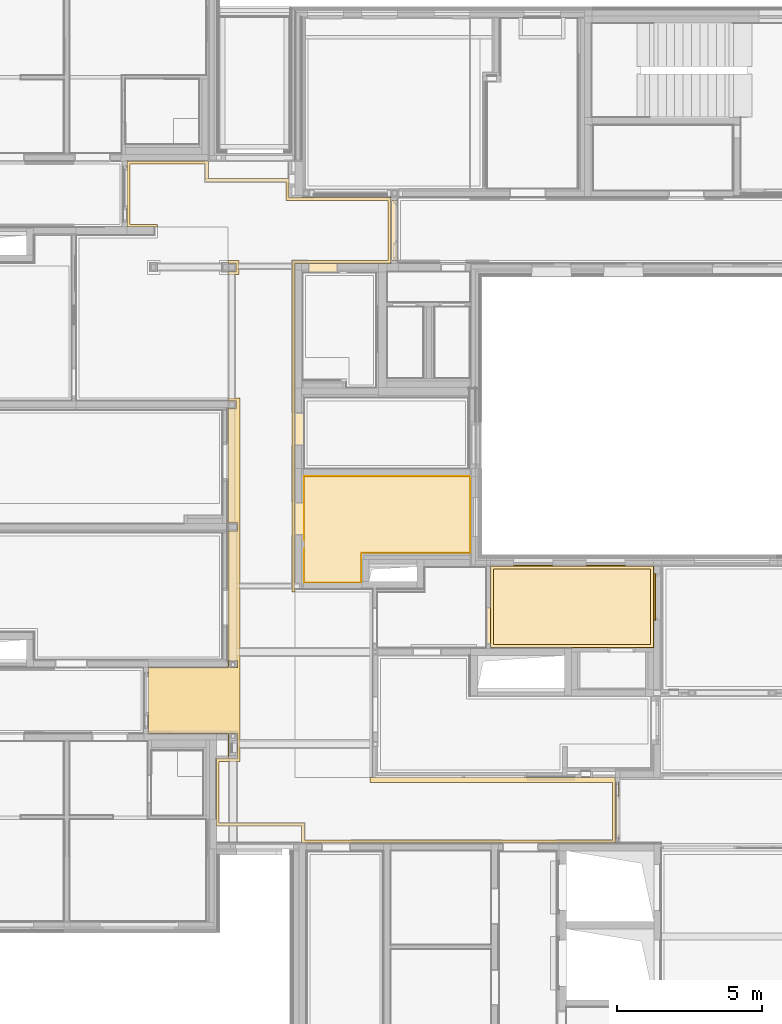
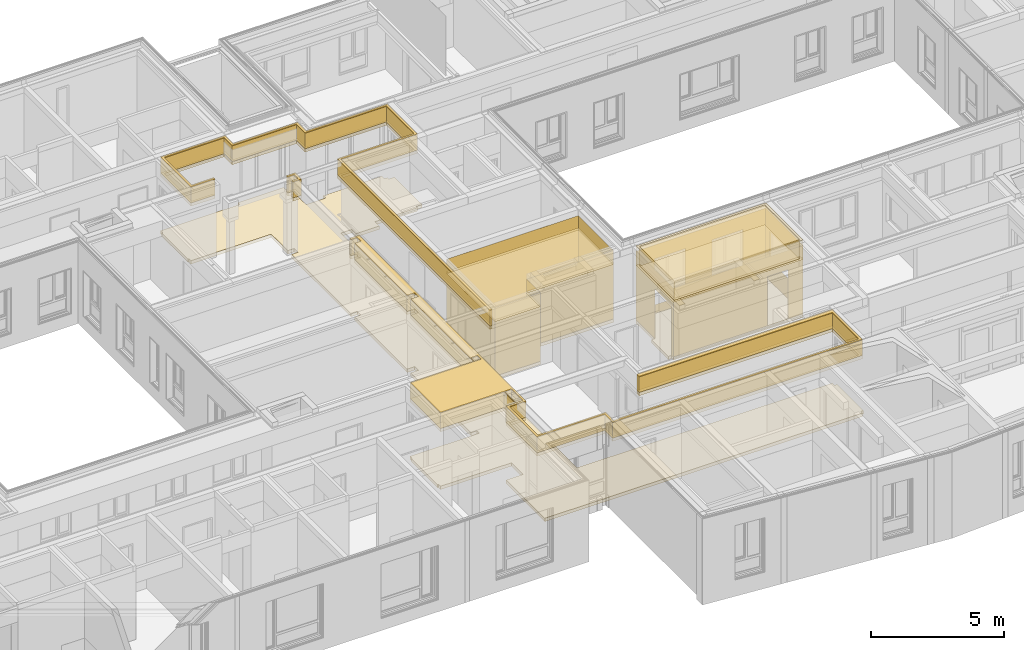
# One storey, part 170 of 222: 18 coverings.
"""IFC4 building model written with IfcOpenShell, lengths in metres."""

from ifc_helpers import new_model, entity, si_unit, converted_unit, derived_unit, frame, frame_2d, origin, origin_with_axes, place, context, subcontext, project, spatial, polyline, rectangle, outline, extrude, material, layer, layer_set, layer_usage, element, save


model = new_model("IFC4")

# Units and contexts
model_context = context("Model", 3, precision=1e-05, world=origin())
body_context = subcontext(model_context, "Body", "Model", "MODEL_VIEW")
ifc_project = project(units=[si_unit("LENGTHUNIT", "METRE"), si_unit("AREAUNIT", "SQUARE_METRE"), si_unit("VOLUMEUNIT", "CUBIC_METRE"), si_unit("MASSUNIT", "GRAM", prefix="KILO"), converted_unit("PLANEANGLEUNIT", "DEGREE", entity("IfcPlaneAngleMeasure", 0.0174532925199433), si_unit("PLANEANGLEUNIT", "RADIAN"), dimensions=[0, 0, 0, 0, 0, 0, 0]), derived_unit("THERMALTRANSMITTANCEUNIT", [(si_unit("POWERUNIT", "WATT"), 1), (si_unit("THERMODYNAMICTEMPERATUREUNIT", "KELVIN"), -1), (si_unit("LENGTHUNIT", "METRE"), -2)]), derived_unit("VOLUMETRICFLOWRATEUNIT", [(si_unit("LENGTHUNIT", "METRE"), 3), (converted_unit("TIMEUNIT", "hour", entity("IfcTimeMeasure", 3600.0), si_unit("TIMEUNIT", "SECOND"), dimensions=[0, 0, 1, 0, 0, 0, 0]), -1), (si_unit("LENGTHUNIT", "METRE"), -1)])], contexts=[model_context])

# Site, building, storey, space
site_placement = place(None, origin())
site = spatial("IfcSite", under=ifc_project, at=site_placement, Name="Psychiatrie Neubau Wunstorf", CompositionType="ELEMENT")
building_placement = place(site_placement, origin())
building = spatial("IfcBuilding", under=site, at=building_placement, Name="Neubau H2 Stationsgebäude", CompositionType="ELEMENT")
storey_placement = place(building_placement, frame((0.0, 0.0, 3.6)))
storey = spatial("IfcBuildingStorey", under=building, at=storey_placement, Name="H2 Ebene +1", CompositionType="ELEMENT", Elevation=3.6)
space_1_placement = place(storey_placement, frame((32.083, 0.550000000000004, 0.0)))
space_1 = spatial("IfcSpace", under=storey, at=space_1_placement, Name="WUN-H2-E01-F03", CompositionType="ELEMENT")

# Coverings
ifc_material_1 = material(Name="Ku1")
ifc_layer_1 = layer(ifc_material_1, 0.15)
ifc_layer_set_1 = layer_set([ifc_layer_1])
ifc_layer_usage_1 = layer_usage(ifc_layer_set_1, "AXIS3", "POSITIVE", 0.0)
covering_1_placement = place(space_1_placement, frame((-0.0400000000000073, 0.0, 0.0)))
element("IfcCovering", 1, at=covering_1_placement, inside=space_1, material=ifc_layer_usage_1, Name="PVC Bahnenware Holzoptik", PredefinedType="FLOORING", context=body_context, shape_type="SweptSolid", body=[
    extrude(rectangle(XDim=1.98299888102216, YDim=0.144999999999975, at=frame_2d((0.991499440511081, 0.0724999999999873), x_axis=(1.0, 0.0))), frame((3.48300111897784, 23.5640036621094, 0.0), z_axis=(0.0, 0.0, 1.0), x_axis=(1.0, 0.0, 0.0)), (0.0, 0.0, 1.0), 0.15),
    extrude(rectangle(XDim=0.117499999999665, YDim=1.9825, at=frame_2d((0.0587499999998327, 0.99125), x_axis=(1.0, 0.0))), frame((16.921690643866, 0.129999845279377, 0.0), z_axis=(0.0, 0.0, 1.0), x_axis=(1.0, 0.0, 0.0)), (0.0, 0.0, 1.0), 0.15),
    extrude(rectangle(XDim=0.039999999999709, YDim=1.9713, at=frame_2d((-0.0199999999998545, -0.98565), x_axis=(-1.0, 0.0))), frame((0.775499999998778, 5.90699981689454, 0.0), z_axis=(0.0, 0.0, 1.0), x_axis=(1.0, 0.0, 0.0)), (0.0, 0.0, 1.0), 0.15),
    extrude(rectangle(XDim=0.0400000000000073, YDim=1.9715, at=frame_2d((-0.0200000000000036, -0.98575), x_axis=(-1.0, 0.0))), frame((0.0400000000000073, 23.4125000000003, 0.0), z_axis=(0.0, 0.0, 1.0), x_axis=(1.0, 0.0, 0.0)), (0.0, 0.0, 1.0), 0.15),
    extrude(rectangle(XDim=0.25, YDim=2.063, at=frame_2d((-0.125, -1.0315), x_axis=(-1.0, 0.0))), frame((9.415, 22.2064990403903, 0.0), z_axis=(0.0, 0.0, 1.0), x_axis=(1.0, 0.0, 0.0)), (0.0, 0.0, 1.0), 0.15),
    extrude(rectangle(XDim=0.322, YDim=1.135, at=frame_2d((-0.161, -0.5675), x_axis=(-1.0, 0.0))), frame((6.16150000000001, 11.7749996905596, 0.0), z_axis=(0.0, 0.0, 1.0), x_axis=(1.0, 0.0, 0.0)), (0.0, 0.0, 1.0), 0.15),
    extrude(rectangle(XDim=0.322, YDim=1.135, at=frame_2d((-0.160999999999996, -0.5675), x_axis=(-1.0, 0.0))), frame((6.16150000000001, 14.875000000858, 0.0), z_axis=(0.0, 0.0, 1.0), x_axis=(1.0, 0.0, 0.0)), (0.0, 0.0, 1.0), 0.15),
    extrude(rectangle(XDim=0.322, YDim=1.01, at=frame_2d((0.505, -0.161), x_axis=(0.0, -1.0))), frame((6.30700000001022, 20.0359980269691, 0.0), z_axis=(0.0, 0.0, 1.0), x_axis=(1.0, 0.0, 0.0)), (0.0, 0.0, 1.0), 0.15),
    extrude(rectangle(XDim=0.185001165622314, YDim=2.55, at=frame_2d((1.275, -0.0925005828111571), x_axis=(0.0, -1.0))), frame((6.48725000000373, 22.499003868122, 0.0), z_axis=(0.0, 0.0, 1.0), x_axis=(1.0, 0.0, 0.0)), (0.0, 0.0, 1.0), 0.15),
    extrude(outline(polyline([(3.8179950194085, 2.90074963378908), (3.08149999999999, 2.90074963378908), (3.08149999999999, 2.44140629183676e-06), (16.8816906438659, 0.0), (16.8816906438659, 2.26749969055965), (5.79949999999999, 2.26749969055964), (5.79949999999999, 20.0359980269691), (9.12499999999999, 20.0359943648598), (9.12499999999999, 22.3139990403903), (5.59599999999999, 22.3140027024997), (5.59599999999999, 23.5640036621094), (2.80599999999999, 23.5640036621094), (2.80599999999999, 23.5675), (0.0, 23.5675), (0.0, 21.2860000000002), (3.48699999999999, 21.2860000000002), (3.48699999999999, 20.0359963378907), (3.76299999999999, 20.0359963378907), (3.76299999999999, 19.7539963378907), (3.48699999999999, 19.7539963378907), (3.48700000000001, 15.2824990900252), (3.76299999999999, 15.2824990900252), (3.76299999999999, 15.0104990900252), (3.48700000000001, 15.0104990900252), (3.48699999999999, 11.059557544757), (3.81799999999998, 11.059557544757), (3.81799999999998, 10.787557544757), (3.48699999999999, 10.787557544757), (3.48699999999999, 6.24699999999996), (3.75223964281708, 6.24699999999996), (3.75223964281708, 6.06699856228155), (3.48724462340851, 6.06699856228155), (3.48724462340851, 6.06199999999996), (0.73549999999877, 6.06199999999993), (0.73549999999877, 3.78074963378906), (3.48699999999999, 3.78074963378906), (3.48699999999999, 3.77574963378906), (3.8179950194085, 3.77574963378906), (3.8179950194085, 2.90074963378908)])), frame((0.0400000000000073, 0.0, 0.0), z_axis=(0.0, 0.0, 1.0), x_axis=(1.0, 0.0, 0.0)), (0.0, 0.0, 1.0), 0.15),
])
ifc_material_2 = material()
ifc_layer_2 = layer(ifc_material_2, 0.036)
ifc_layer_set_2 = layer_set([ifc_layer_2])
ifc_layer_usage_2 = layer_usage(ifc_layer_set_2, "AXIS3", "POSITIVE", 0.0)
covering_2_placement = place(space_1_placement, frame((0.0, 0.0, 3.55)))
element("IfcCovering", 2, at=covering_2_placement, inside=space_1, material=ifc_layer_usage_2, Name="Gipsfaserplatten 2-lagig (BSK)", PredefinedType="CEILING", context=body_context, shape_type="SweptSolid", body=[
    extrude(outline(polyline([(16.0461906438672, 15.2824990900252), (16.0461906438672, 13.2924992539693), (7.65649755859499, 13.2924992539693), (7.65649755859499, 13.1149993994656), (16.1461906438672, 13.1149993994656), (16.1461906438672, 15.3824990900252), (5.29250000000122, 15.3824990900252), (5.29250000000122, 14.7964966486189), (2.34600000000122, 14.7964966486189), (2.34600000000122, 12.4617494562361), (2.75150000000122, 12.4617494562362), (2.75150000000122, 11.6017494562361), (0.0, 11.6017494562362), (0.0, 9.3204990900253), (2.75150000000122, 9.32049909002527), (2.75150000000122, 4.5949415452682), (3.08250000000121, 4.5949415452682), (3.08250000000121, 4.3229415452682), (2.75150000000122, 4.3229415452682), (2.75150000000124, 0.372), (3.02750000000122, 0.372), (3.02750000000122, 0.1), (2.75150000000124, 0.1), (2.75150000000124, 0.0), (3.16750000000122, 0.0), (3.16750000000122, 12.5617494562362), (2.44600000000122, 12.5617494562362), (2.44600000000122, 14.6964966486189), (5.39250000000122, 14.6964966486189), (5.39250000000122, 15.2824990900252), (16.0461906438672, 15.2824990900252)]), holes=[polyline([(2.7815000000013, 12.4617494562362), (3.08249501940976, 12.4617494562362), (3.08249501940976, 11.6017494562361), (2.7815000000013, 11.6017494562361), (2.7815000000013, 12.4617494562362)]), polyline([(3.08273964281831, 9.32050052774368), (3.08273964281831, 9.06950052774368), (2.78150000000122, 9.06949909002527), (2.78150000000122, 9.32049909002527), (3.08273964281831, 9.32050052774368)])]), frame((0.735499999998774, 15.3824990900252, 0.0), z_axis=(0.0, 0.0, -1.0), x_axis=(1.0, 0.0, 0.0)), (0.0, 0.0, 1.0), 0.036),
    extrude(outline(polyline([(9.02499999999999, 3.43150563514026), (9.02499999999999, 1.3535009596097), (5.49599999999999, 1.35349729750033), (5.49599999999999, 0.702500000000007), (2.70599999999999, 0.702500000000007), (2.70599999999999, 0.1), (0.0999999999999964, 0.100000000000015), (0.0999999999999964, 2.18149999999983), (1.04999999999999, 2.18149999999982), (1.04999999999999, 2.28149999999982), (0.0, 2.28149999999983), (0.0, 0.0), (2.80599999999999, 0.0), (2.80599999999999, 0.602500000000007), (5.59599999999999, 0.602500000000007), (5.59599999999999, 1.25349729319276), (9.12499999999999, 1.25350095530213), (9.12499999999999, 3.53150563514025), (5.79949999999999, 3.53150197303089), (5.79949999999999, 14.8950037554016), (5.69949999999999, 14.8950037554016), (5.69949999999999, 3.43150197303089), (9.02499999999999, 3.43150563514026)])), frame((0.0, 23.5675, 0.0), z_axis=(0.0, 0.0, -1.0), x_axis=(1.0, 0.0, 0.0)), (0.0, 0.0, 1.0), 0.036),
    extrude(outline(polyline([(0.0, 0.0), (0.376000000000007, 0.0), (0.376000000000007, 0.481998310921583), (0.0, 0.481998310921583), (0.0, 0.382), (0.276000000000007, 0.382), (0.276000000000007, 0.1), (0.0, 0.1), (0.0, 0.0)])), frame((3.48699999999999, 20.1359963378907, 0.0), z_axis=(0.0, 0.0, -1.0), x_axis=(1.0, 0.0, 0.0)), (0.0, 0.0, 1.0), 0.036),
])
ifc_material_3 = material(Name="Installationshöhe")
ifc_layer_3 = layer(ifc_material_3, 0.714)
ifc_layer_set_3 = layer_set([ifc_layer_3])
ifc_layer_usage_3 = layer_usage(ifc_layer_set_3, "AXIS3", "POSITIVE", 0.0)
covering_3_placement = place(space_1_placement, frame((0.0, 0.0, 3.514)))
element("IfcCovering", 3, at=covering_3_placement, inside=space_1, material=ifc_layer_usage_3, Name="Gipsfaserplatten 2-lagig (BSK)", PredefinedType="CEILING", context=body_context, shape_type="SweptSolid", body=[
    extrude(outline(polyline([(16.0461906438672, 15.2824990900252), (16.0461906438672, 13.2924992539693), (7.65649755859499, 13.2924992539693), (7.65649755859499, 13.1149993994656), (16.1461906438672, 13.1149993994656), (16.1461906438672, 15.3824990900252), (5.29250000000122, 15.3824990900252), (5.29250000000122, 14.7964966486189), (2.34600000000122, 14.7964966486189), (2.34600000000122, 12.4617494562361), (2.75150000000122, 12.4617494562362), (2.75150000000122, 11.6017494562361), (0.0, 11.6017494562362), (0.0, 9.3204990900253), (2.75150000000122, 9.32049909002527), (2.75150000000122, 4.5949415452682), (3.08250000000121, 4.5949415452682), (3.08250000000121, 4.3229415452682), (2.75150000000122, 4.3229415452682), (2.75150000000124, 0.372), (3.02750000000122, 0.372), (3.02750000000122, 0.1), (2.75150000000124, 0.1), (2.75150000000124, 0.0), (3.16750000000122, 0.0), (3.16750000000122, 12.5617494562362), (2.44600000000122, 12.5617494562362), (2.44600000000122, 14.6964966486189), (5.39250000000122, 14.6964966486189), (5.39250000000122, 15.2824990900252), (16.0461906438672, 15.2824990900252)]), holes=[polyline([(2.7815000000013, 12.4617494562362), (3.08249501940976, 12.4617494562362), (3.08249501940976, 11.6017494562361), (2.7815000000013, 11.6017494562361), (2.7815000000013, 12.4617494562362)]), polyline([(3.08273964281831, 9.32050052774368), (3.08273964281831, 9.06950052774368), (2.78150000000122, 9.06949909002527), (2.78150000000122, 9.32049909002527), (3.08273964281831, 9.32050052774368)])]), frame((0.735499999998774, 15.3824990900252, 0.0), z_axis=(0.0, 0.0, -1.0), x_axis=(1.0, 0.0, 0.0)), (0.0, 0.0, 1.0), 0.714),
    extrude(outline(polyline([(9.02499999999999, 3.43150563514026), (9.02499999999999, 1.3535009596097), (5.49599999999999, 1.35349729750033), (5.49599999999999, 0.702500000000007), (2.70599999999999, 0.702500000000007), (2.70599999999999, 0.1), (0.0999999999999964, 0.100000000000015), (0.0999999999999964, 2.18149999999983), (1.04999999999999, 2.18149999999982), (1.04999999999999, 2.28149999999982), (0.0, 2.28149999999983), (0.0, 0.0), (2.80599999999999, 0.0), (2.80599999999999, 0.602500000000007), (5.59599999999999, 0.602500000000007), (5.59599999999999, 1.25349729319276), (9.12499999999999, 1.25350095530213), (9.12499999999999, 3.53150563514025), (5.79949999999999, 3.53150197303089), (5.79949999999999, 14.8950037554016), (5.69949999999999, 14.8950037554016), (5.69949999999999, 3.43150197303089), (9.02499999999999, 3.43150563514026)])), frame((0.0, 23.5675, 0.0), z_axis=(0.0, 0.0, -1.0), x_axis=(1.0, 0.0, 0.0)), (0.0, 0.0, 1.0), 0.714),
    extrude(outline(polyline([(0.0, 0.0), (0.376000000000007, 0.0), (0.376000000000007, 0.481998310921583), (0.0, 0.481998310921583), (0.0, 0.382), (0.276000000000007, 0.382), (0.276000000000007, 0.1), (0.0, 0.1), (0.0, 0.0)])), frame((3.48699999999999, 20.1359963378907, 0.0), z_axis=(0.0, 0.0, -1.0), x_axis=(1.0, 0.0, 0.0)), (0.0, 0.0, 1.0), 0.714),
])
ifc_material_4 = material(Name="A1")
ifc_layer_4 = layer(ifc_material_4, 0.15)
ifc_layer_set_4 = layer_set([ifc_layer_4])
ifc_layer_usage_4 = layer_usage(ifc_layer_set_4, "AXIS3", "POSITIVE", 0.0)
covering_4_placement = place(space_1_placement, frame((0.0, 0.0, 2.8)))
element("IfcCovering", 4, at=covering_4_placement, inside=space_1, material=ifc_layer_usage_4, Name="Gipsfaserplatten 2-lagig (BSK)", PredefinedType="CEILING", context=body_context, shape_type="SweptSolid", body=[
    extrude(outline(polyline([(16.0461906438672, 15.2824990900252), (16.0461906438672, 13.2924992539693), (7.65649755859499, 13.2924992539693), (7.65649755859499, 13.1149993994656), (16.1461906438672, 13.1149993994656), (16.1461906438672, 15.3824990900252), (5.29250000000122, 15.3824990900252), (5.29250000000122, 14.7964966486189), (2.34600000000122, 14.7964966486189), (2.34600000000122, 12.4617494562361), (2.75150000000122, 12.4617494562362), (2.75150000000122, 11.6017494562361), (0.0, 11.6017494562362), (0.0, 9.3204990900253), (2.75150000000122, 9.32049909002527), (2.75150000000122, 4.5949415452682), (3.08250000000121, 4.5949415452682), (3.08250000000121, 4.3229415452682), (2.75150000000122, 4.3229415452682), (2.75150000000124, 0.372), (3.02750000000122, 0.372), (3.02750000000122, 0.1), (2.75150000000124, 0.1), (2.75150000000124, 0.0), (3.16750000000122, 0.0), (3.16750000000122, 12.5617494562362), (2.44600000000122, 12.5617494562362), (2.44600000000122, 14.6964966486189), (5.39250000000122, 14.6964966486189), (5.39250000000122, 15.2824990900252), (16.0461906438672, 15.2824990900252)]), holes=[polyline([(2.7815000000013, 12.4617494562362), (3.08249501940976, 12.4617494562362), (3.08249501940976, 11.6017494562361), (2.7815000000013, 11.6017494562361), (2.7815000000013, 12.4617494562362)]), polyline([(3.08273964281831, 9.32050052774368), (3.08273964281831, 9.06950052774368), (2.78150000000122, 9.06949909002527), (2.78150000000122, 9.32049909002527), (3.08273964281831, 9.32050052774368)])]), frame((0.735499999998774, 15.3824990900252, 0.0), z_axis=(0.0, 0.0, -1.0), x_axis=(1.0, 0.0, 0.0)), (0.0, 0.0, 1.0), 0.15),
    extrude(outline(polyline([(9.02499999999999, 3.43150563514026), (9.02499999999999, 1.3535009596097), (5.49599999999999, 1.35349729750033), (5.49599999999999, 0.702500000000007), (2.70599999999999, 0.702500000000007), (2.70599999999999, 0.1), (0.0999999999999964, 0.100000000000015), (0.0999999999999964, 2.18149999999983), (1.04999999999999, 2.18149999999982), (1.04999999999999, 2.28149999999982), (0.0, 2.28149999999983), (0.0, 0.0), (2.80599999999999, 0.0), (2.80599999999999, 0.602500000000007), (5.59599999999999, 0.602500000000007), (5.59599999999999, 1.25349729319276), (9.12499999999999, 1.25350095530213), (9.12499999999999, 3.53150563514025), (5.79949999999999, 3.53150197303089), (5.79949999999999, 14.8950037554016), (5.69949999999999, 14.8950037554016), (5.69949999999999, 3.43150197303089), (9.02499999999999, 3.43150563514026)])), frame((0.0, 23.5675, 0.0), z_axis=(0.0, 0.0, -1.0), x_axis=(1.0, 0.0, 0.0)), (0.0, 0.0, 1.0), 0.15),
    extrude(outline(polyline([(0.0, 0.0), (0.376000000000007, 0.0), (0.376000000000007, 0.481998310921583), (0.0, 0.481998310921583), (0.0, 0.382), (0.276000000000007, 0.382), (0.276000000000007, 0.1), (0.0, 0.1), (0.0, 0.0)])), frame((3.48699999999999, 20.1359963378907, 0.0), z_axis=(0.0, 0.0, -1.0), x_axis=(1.0, 0.0, 0.0)), (0.0, 0.0, 1.0), 0.15),
])

# Space
space_2_placement = place(storey_placement, frame((44.65, 7.29999969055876, 0.0)))
space_2 = spatial("IfcSpace", under=storey, at=space_2_placement, Name="WUN-H2-E01-012a", CompositionType="ELEMENT")

# Coverings
ifc_material_5 = material()
ifc_layer_5 = layer(ifc_material_5, 0.036)
ifc_layer_set_5 = layer_set([ifc_layer_5])
ifc_layer_usage_5 = layer_usage(ifc_layer_set_5, "AXIS3", "POSITIVE", 0.0)
covering_5_placement = place(space_2_placement, frame((0.0, 0.0, 3.55)))
element("IfcCovering", 5, at=covering_5_placement, inside=space_2, material=ifc_layer_usage_5, Name="Gipsfaserplatten 2-lagig (BSK)", PredefinedType="CEILING", context=body_context, shape_type="SweptSolid", body=[
    extrude(outline(polyline([(5.63600000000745, 2.81400000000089), (0.0, 2.81399969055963), (0.0, 0.0), (5.63600000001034, 0.0), (5.63600000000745, 2.81400000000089)])), frame((0.0, 2.81400000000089, 0.0), z_axis=(0.0, 0.0, -1.0), x_axis=(1.0, 0.0, 0.0)), (0.0, 0.0, 1.0), 0.036),
])
ifc_material_6 = material(Name="Installationshöhe")
ifc_layer_6 = layer(ifc_material_6, 0.764)
ifc_layer_set_6 = layer_set([ifc_layer_6])
ifc_layer_usage_6 = layer_usage(ifc_layer_set_6, "AXIS3", "POSITIVE", 0.0)
covering_6_placement = place(space_2_placement, frame((0.0, 0.0, 3.514)))
element("IfcCovering", 6, at=covering_6_placement, inside=space_2, material=ifc_layer_usage_6, Name="Gipsfaserplatten 2-lagig (BSK)", PredefinedType="CEILING", context=body_context, shape_type="SweptSolid", body=[
    extrude(outline(polyline([(5.63600000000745, 2.81400000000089), (0.0, 2.81399969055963), (0.0, 0.0), (5.63600000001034, 0.0), (5.63600000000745, 2.81400000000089)])), frame((0.0, 2.81400000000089, 0.0), z_axis=(0.0, 0.0, -1.0), x_axis=(1.0, 0.0, 0.0)), (0.0, 0.0, 1.0), 0.764),
])
ifc_material_7 = material(Name="H7a")
ifc_layer_7 = layer(ifc_material_7, 0.1)
ifc_layer_set_7 = layer_set([ifc_layer_7])
ifc_layer_usage_7 = layer_usage(ifc_layer_set_7, "AXIS3", "POSITIVE", 0.0)
covering_7_placement = place(space_2_placement, frame((0.0, 0.0, 2.75)))
element("IfcCovering", 7, at=covering_7_placement, inside=space_2, material=ifc_layer_usage_7, Name="Kühldecke glatt", PredefinedType="CEILING", context=body_context, shape_type="SweptSolid", body=[
    extrude(outline(polyline([(5.63600000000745, 2.81400000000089), (0.0, 2.81399969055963), (0.0, 0.0), (5.63600000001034, 0.0), (5.63600000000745, 2.81400000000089)])), frame((0.0, 2.81400000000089, 0.0), z_axis=(0.0, 0.0, -1.0), x_axis=(1.0, 0.0, 0.0)), (0.0, 0.0, 1.0), 0.1),
])
ifc_material_8 = material(Name="D1")
ifc_layer_8 = layer(ifc_material_8, 0.001)
ifc_layer_set_8 = layer_set([ifc_layer_8])
ifc_layer_usage_8 = layer_usage(ifc_layer_set_8, "AXIS3", "POSITIVE", 0.0)
covering_8_placement = place(space_2_placement, frame((0.0, 0.0, 2.65)))
element("IfcCovering", 8, at=covering_8_placement, inside=space_2, material=ifc_layer_usage_8, Name="Gipsfaserplatten 2-lagig (BSK)", PredefinedType="CEILING", context=body_context, shape_type="SweptSolid", body=[
    extrude(outline(polyline([(5.63600000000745, 2.81400000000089), (0.0, 2.81399969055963), (0.0, 0.0), (5.63600000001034, 0.0), (5.63600000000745, 2.81400000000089)])), frame((0.0, 2.81400000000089, 0.0), z_axis=(0.0, 0.0, -1.0), x_axis=(1.0, 0.0, 0.0)), (0.0, 0.0, 1.0), 0.001),
])
ifc_material_9 = material()
ifc_layer_9 = layer(ifc_material_9, 0.036)
ifc_layer_set_9 = layer_set([ifc_layer_9])
ifc_layer_usage_9 = layer_usage(ifc_layer_set_9, "AXIS3", "POSITIVE", 0.0)
covering_9_placement = place(space_2_placement, frame((0.1, 0.100000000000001, 3.55)))
element("IfcCovering", 9, at=covering_9_placement, inside=space_2, material=ifc_layer_usage_9, Name="Gipsfaserplatten 2-lagig (BSK)", PredefinedType="CEILING", context=body_context, shape_type="SweptSolid", body=[
    extrude(rectangle(XDim=5.43600000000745, YDim=2.61400000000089, at=frame_2d((2.71800000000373, 1.30700000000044), x_axis=(1.0, 0.0))), frame((0.0, 2.61400000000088, 0.0), z_axis=(0.0, 0.0, -1.0), x_axis=(1.0, 0.0, 0.0)), (0.0, 0.0, 1.0), 0.036),
])
ifc_material_10 = material(Name="Installationshöhe")
ifc_layer_10 = layer(ifc_material_10, 0.764)
ifc_layer_set_10 = layer_set([ifc_layer_10])
ifc_layer_usage_10 = layer_usage(ifc_layer_set_10, "AXIS3", "POSITIVE", 0.0)
covering_10_placement = place(space_2_placement, frame((0.1, 0.100000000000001, 3.514)))
element("IfcCovering", 10, at=covering_10_placement, inside=space_2, material=ifc_layer_usage_10, Name="Gipsfaserplatten 2-lagig (BSK)", PredefinedType="CEILING", context=body_context, shape_type="SweptSolid", body=[
    extrude(rectangle(XDim=5.43600000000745, YDim=2.61400000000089, at=frame_2d((2.71800000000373, 1.30700000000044), x_axis=(1.0, 0.0))), frame((0.0, 2.61400000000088, 0.0), z_axis=(0.0, 0.0, -1.0), x_axis=(1.0, 0.0, 0.0)), (0.0, 0.0, 1.0), 0.764),
])
ifc_material_11 = material(Name="H7b")
ifc_layer_11 = layer(ifc_material_11, 0.1)
ifc_layer_set_11 = layer_set([ifc_layer_11])
ifc_layer_usage_11 = layer_usage(ifc_layer_set_11, "AXIS3", "POSITIVE", 0.0)
covering_11_placement = place(space_2_placement, frame((0.1, 0.100000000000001, 2.75)))
element("IfcCovering", 11, at=covering_11_placement, inside=space_2, material=ifc_layer_usage_11, Name="Kühldecke gelocht", PredefinedType="CEILING", context=body_context, shape_type="SweptSolid", body=[
    extrude(rectangle(XDim=5.43600000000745, YDim=2.61400000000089, at=frame_2d((2.71800000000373, 1.30700000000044), x_axis=(1.0, 0.0))), frame((0.0, 2.61400000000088, 0.0), z_axis=(0.0, 0.0, -1.0), x_axis=(1.0, 0.0, 0.0)), (0.0, 0.0, 1.0), 0.1),
])
ifc_material_12 = material(Name="D1")
ifc_layer_12 = layer(ifc_material_12, 0.001)
ifc_layer_set_12 = layer_set([ifc_layer_12])
ifc_layer_usage_12 = layer_usage(ifc_layer_set_12, "AXIS3", "POSITIVE", 0.0)
covering_12_placement = place(space_2_placement, frame((0.1, 0.100000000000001, 2.65)))
element("IfcCovering", 12, at=covering_12_placement, inside=space_2, material=ifc_layer_usage_12, Name="Gipsfaserplatten 2-lagig (BSK)", PredefinedType="CEILING", context=body_context, shape_type="SweptSolid", body=[
    extrude(rectangle(XDim=5.43600000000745, YDim=2.61400000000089, at=frame_2d((2.71800000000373, 1.30700000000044), x_axis=(1.0, 0.0))), frame((0.0, 2.61400000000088, 0.0), z_axis=(0.0, 0.0, -1.0), x_axis=(1.0, 0.0, 0.0)), (0.0, 0.0, 1.0), 0.001),
])
ifc_material_13 = material(Name="Ku1")
ifc_layer_13 = layer(ifc_material_13, 0.15)
ifc_layer_set_13 = layer_set([ifc_layer_13])
ifc_layer_usage_13 = layer_usage(ifc_layer_set_13, "AXIS3", "POSITIVE", 0.0)
covering_13_placement = place(space_2_placement, frame((-0.15, 0.0, 0.0)))
element("IfcCovering", 13, at=covering_13_placement, inside=space_2, material=ifc_layer_usage_13, Name="PVC Bahnenware Holzoptik", PredefinedType="FLOORING", context=body_context, shape_type="SweptSolid", body=[
    extrude(rectangle(XDim=0.15, YDim=1.26, at=frame_2d((0.075, 0.63), x_axis=(1.0, 0.0))), frame((0.0, 0.125000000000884, 0.0), z_axis=(0.0, 0.0, 1.0), x_axis=(1.0, 0.0, 0.0)), (0.0, 0.0, 1.0), 0.15),
    extrude(rectangle(XDim=2.81399969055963, YDim=5.63600000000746, at=frame_2d((2.81800000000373, -1.40700000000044), x_axis=(0.0, -1.0))), frame((0.15, 2.81400000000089, 0.0), z_axis=(0.0, 0.0, 1.0), x_axis=(1.0, 0.0, 0.0)), (0.0, 0.0, 1.0), 0.15),
])
ifc_material_14 = material(Name="49")
ifc_layer_14 = layer(ifc_material_14, 0.001)
ifc_layer_set_14 = layer_set([ifc_layer_14])
ifc_layer_usage_14 = layer_usage(ifc_layer_set_14, "AXIS3", "POSITIVE", 0.0)
covering_14_placement = place(space_2_placement, frame((0.0, 0.0, 0.15)))
element("IfcCovering", 14, at=covering_14_placement, inside=space_2, material=ifc_layer_usage_14, PredefinedType="CLADDING", context=body_context, shape_type="SweptSolid", body=[
    extrude(outline(polyline([(0.0, 3.15), (2.81400000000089, 3.15), (2.81400000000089, 0.0), (0.0, 0.0), (0.0, 3.15)]), holes=[polyline([(2.55150000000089, 2.2), (0.951500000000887, 2.2), (0.951500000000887, 0.89), (2.55150000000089, 0.89), (2.55150000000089, 2.2)])]), frame((5.63600000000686, 0.0, 3.15), z_axis=(-1.0, 8.30188483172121e-13, 3.86416614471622e-29), x_axis=(8.30188483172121e-13, 1.0, 0.0)), (0.0, 0.0, 1.0), 0.001),
    extrude(outline(polyline([(0.0, 3.15), (5.63600000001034, 3.15), (5.63600000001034, 0.0), (0.0, 0.0), (0.0, 3.15)]), holes=[polyline([(2.33732285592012, 2.75), (0.987322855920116, 2.75), (0.987322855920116, 0.635), (2.33732285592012, 0.635), (2.33732285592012, 2.75)]), polyline([(4.83732285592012, 2.75), (3.48732285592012, 2.75), (3.48732285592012, 0.635), (4.83732285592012, 0.635), (4.83732285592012, 2.75)])]), frame((5.63600000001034, 2.81400000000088, 3.15), z_axis=(-6.66944869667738e-16, -1.0, 0.0), x_axis=(-1.0, 6.66944869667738e-16, 0.0)), (0.0, 0.0, 1.0), 0.001),
    extrude(outline(polyline([(0.0, 3.15), (1.429, 3.15), (1.429, 0.89), (2.689, 0.89), (2.689, 3.15), (2.81399969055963, 3.15), (2.81399969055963, 0.0), (0.0, 0.0), (0.0, 3.15)])), frame((0.0, 2.81400000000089, 3.15), z_axis=(1.0, 0.0, 0.0), x_axis=(0.0, -1.0, 0.0)), (0.0, 0.0, 1.0), 0.001),
    extrude(outline(polyline([(0.0, 3.15), (4.08250000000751, 3.15), (4.08250000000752, 0.89), (4.96750000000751, 0.89), (4.96750000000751, 3.15), (5.63600000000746, 3.15), (5.63600000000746, 0.0), (0.0, 0.0), (0.0, 3.15)])), frame((0.0, 2.92119611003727e-07, 3.15), z_axis=(5.62381602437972e-08, 0.999999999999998, 3.87694358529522e-09), x_axis=(0.999999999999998, -5.62381602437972e-08, 0.0)), (0.0, 0.0, 1.0), 0.001),
    extrude(rectangle(XDim=1.31, YDim=0.0800000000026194, at=frame_2d((-0.0400000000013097, -0.655), x_axis=(0.0, -1.0))), frame((5.63600000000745, 2.55150000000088, 0.95), z_axis=(0.0, -1.0, 0.0), x_axis=(-1.0, 0.0, 0.0)), (0.0, 0.0, 1.0), 0.001),
    extrude(rectangle(XDim=1.6, YDim=0.0800000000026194, at=frame_2d((-0.0400000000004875, -0.8), x_axis=(1.02772901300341e-12, -1.0))), frame((5.71600000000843, 0.951500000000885, 2.26), z_axis=(0.0, 0.0, -1.0), x_axis=(1.0, 0.0, 0.0)), (0.0, 0.0, 1.0), 0.001),
    extrude(rectangle(XDim=1.31, YDim=0.080000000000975, at=frame_2d((-0.0400000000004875, -0.655), x_axis=(0.0, -1.0))), frame((5.71600000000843, 0.951500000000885, 0.95), z_axis=(0.0, 1.0, 0.0), x_axis=(1.0, 0.0, 0.0)), (0.0, 0.0, 1.0), 0.001),
    extrude(rectangle(XDim=0.0400000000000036, YDim=1.35, at=frame_2d((-0.675, -0.0200000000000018), x_axis=(0.0, -1.0))), frame((4.64867714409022, 2.81400000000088, 2.515), z_axis=(0.0, 0.0, -1.0), x_axis=(1.0, 0.0, 0.0)), (0.0, 0.0, 1.0), 0.001),
    extrude(rectangle(XDim=0.0400000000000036, YDim=2.115, at=frame_2d((0.0200000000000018, -1.0575), x_axis=(1.0, 0.0))), frame((4.64867714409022, 2.81400000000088, 0.4), z_axis=(-1.0, 0.0, 0.0), x_axis=(0.0, 1.0, 0.0)), (0.0, 0.0, 1.0), 0.001),
    extrude(rectangle(XDim=2.115, YDim=0.0400000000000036, at=frame_2d((-0.0200000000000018, -1.0575), x_axis=(0.0, -1.0))), frame((3.29867714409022, 2.81400000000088, 0.4), z_axis=(1.0, 0.0, 0.0), x_axis=(0.0, -1.0, 0.0)), (0.0, 0.0, 1.0), 0.001),
    extrude(rectangle(XDim=0.04, YDim=1.35, at=frame_2d((-0.675, -0.02), x_axis=(0.0, -1.0))), frame((2.14867714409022, 2.81400000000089, 2.515), z_axis=(0.0, 0.0, -1.0), x_axis=(1.0, 0.0, 0.0)), (0.0, 0.0, 1.0), 0.001),
    extrude(rectangle(XDim=0.04, YDim=2.115, at=frame_2d((0.02, -1.0575), x_axis=(1.0, 0.0))), frame((2.14867714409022, 2.81400000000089, 0.4), z_axis=(-1.0, 0.0, 0.0), x_axis=(0.0, 1.0, 0.0)), (0.0, 0.0, 1.0), 0.001),
    extrude(rectangle(XDim=2.115, YDim=0.04, at=frame_2d((-0.02, -1.0575), x_axis=(0.0, -1.0))), frame((0.798677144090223, 2.81400000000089, 0.4), z_axis=(1.0, 0.0, 0.0), x_axis=(0.0, -1.0, 0.0)), (0.0, 0.0, 1.0), 0.001),
])

# Space
space_3_placement = place(storey_placement, frame((38.204, 9.55599624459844, 0.0)))
space_3 = spatial("IfcSpace", under=storey, at=space_3_placement, Name="WUN-H2-E01-011", CompositionType="ELEMENT")

# Coverings
ifc_material_15 = material(Name="H7a")
ifc_layer_15 = layer(ifc_material_15, 0.1)
ifc_layer_set_15 = layer_set([ifc_layer_15])
ifc_layer_usage_15 = layer_usage(ifc_layer_set_15, "AXIS3", "POSITIVE", 0.0)
covering_15_placement = place(space_3_placement, frame((0.0, 0.0, 2.75)))
element("IfcCovering", 15, at=covering_15_placement, inside=space_3, material=ifc_layer_usage_15, Name="Kühldecke glatt", PredefinedType="CEILING", context=body_context, shape_type="SweptSolid", body=[
    extrude(outline(polyline([(0.0, 0.0), (5.73500000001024, 0.0), (5.73500000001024, 0.729758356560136), (5.73498150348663, 0.729758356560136), (5.73500000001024, 2.63650292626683), (1.96595153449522, 2.63650292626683), (1.96595153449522, 3.66150038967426), (0.0, 3.66150038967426), (0.0, 0.0)])), frame((0.0, 3.66150038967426, 0.0), z_axis=(0.0, 0.0, -1.0), x_axis=(1.0, 0.0, 0.0)), (0.0, 0.0, 1.0), 0.1),
])
ifc_material_16 = material(Name="D1")
ifc_layer_16 = layer(ifc_material_16, 0.001)
ifc_layer_set_16 = layer_set([ifc_layer_16])
ifc_layer_usage_16 = layer_usage(ifc_layer_set_16, "AXIS3", "POSITIVE", 0.0)
covering_16_placement = place(space_3_placement, frame((0.0, 0.0, 2.65)))
element("IfcCovering", 16, at=covering_16_placement, inside=space_3, material=ifc_layer_usage_16, Name="Gipsfaserplatten 2-lagig (BSK)", PredefinedType="CEILING", context=body_context, shape_type="SweptSolid", body=[
    extrude(outline(polyline([(0.0, 0.0), (5.73500000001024, 0.0), (5.73500000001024, 0.729758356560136), (5.73498150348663, 0.729758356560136), (5.73500000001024, 2.63650292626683), (1.96595153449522, 2.63650292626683), (1.96595153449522, 3.66150038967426), (0.0, 3.66150038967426), (0.0, 0.0)])), frame((0.0, 3.66150038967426, 0.0), z_axis=(0.0, 0.0, -1.0), x_axis=(1.0, 0.0, 0.0)), (0.0, 0.0, 1.0), 0.001),
])
ifc_material_17 = material(Name="Ku2")
ifc_layer_17 = layer(ifc_material_17, 0.15)
ifc_layer_set_17 = layer_set([ifc_layer_17])
ifc_layer_usage_17 = layer_usage(ifc_layer_set_17, "AXIS3", "POSITIVE", 0.0)
covering_17_placement = place(space_3_placement, origin())
element("IfcCovering", 17, at=covering_17_placement, inside=space_3, material=ifc_layer_usage_17, Name="PVC Bahnenware Uni", PredefinedType="FLOORING", context=body_context, shape_type="SweptSolid", body=[
    extrude(outline(polyline([(5.73500000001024, 3.66150038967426), (0.0, 3.66150038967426), (0.0, 0.0), (1.96595153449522, 0.0), (1.96595153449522, 1.02499746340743), (5.73500000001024, 1.02499746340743), (5.73512171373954, 3.61150038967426), (5.73500000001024, 3.61150038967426), (5.73500000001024, 3.66150038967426)])), origin_with_axes(), (0.0, 0.0, 1.0), 0.15),
])
ifc_material_18 = material(Name="49")
ifc_layer_18 = layer(ifc_material_18, 0.001)
ifc_layer_set_18 = layer_set([ifc_layer_18])
ifc_layer_usage_18 = layer_usage(ifc_layer_set_18, "AXIS3", "POSITIVE", 0.0)
covering_18_placement = place(space_3_placement, frame((0.0, 0.0, 0.15)))
element("IfcCovering", 18, at=covering_18_placement, inside=space_3, material=ifc_layer_usage_18, PredefinedType="CLADDING", context=body_context, shape_type="SweptSolid", body=[
    extrude(rectangle(XDim=0.000121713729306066, YDim=3.15, at=frame_2d((6.0856864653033e-05, -1.575), x_axis=(1.0, 0.0))), frame((5.73512171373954, 3.61150038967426, 0.0), z_axis=(0.0, -1.0, 0.0), x_axis=(-1.0, 0.0, 0.0)), (0.0, 0.0, 1.0), 0.001),
    extrude(rectangle(XDim=0.05, YDim=3.15, at=frame_2d((0.025, -1.575), x_axis=(1.0, 0.0))), frame((5.73500000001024, 3.61150038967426, 0.0), z_axis=(-1.0, 0.0, 0.0), x_axis=(0.0, 1.0, 0.0)), (0.0, 0.0, 1.0), 0.001),
    extrude(rectangle(XDim=5.73500000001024, YDim=3.15, at=frame_2d((2.86750000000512, -1.575), x_axis=(1.0, 0.0))), frame((5.73500000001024, 3.66150038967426, 0.0), z_axis=(0.0, -1.0, 0.0), x_axis=(-1.0, 0.0, 0.0)), (0.0, 0.0, 1.0), 0.001),
    extrude(rectangle(XDim=3.66150038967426, YDim=3.15, at=frame_2d((1.83075019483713, -1.575), x_axis=(1.0, 0.0))), frame((0.0, 3.66150038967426, 0.0), z_axis=(1.0, 0.0, 0.0), x_axis=(0.0, -1.0, 0.0)), (0.0, 0.0, 1.0), 0.001),
    extrude(rectangle(XDim=1.96595153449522, YDim=3.15, at=frame_2d((0.982975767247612, -1.575), x_axis=(1.0, 0.0))), frame((0.0, 0.0, 0.0), z_axis=(0.0, 1.0, 0.0), x_axis=(1.0, 0.0, 0.0)), (0.0, 0.0, 1.0), 0.001),
    extrude(rectangle(XDim=1.02499746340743, YDim=3.15, at=frame_2d((0.512498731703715, -1.575), x_axis=(1.0, 0.0))), frame((1.96595153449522, 0.0, 0.0), z_axis=(-1.0, 0.0, 0.0), x_axis=(0.0, 1.0, 0.0)), (0.0, 0.0, 1.0), 0.001),
    extrude(rectangle(XDim=3.76904846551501, YDim=3.15, at=frame_2d((1.88452423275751, -1.575), x_axis=(1.0, 0.0))), frame((1.96595153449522, 1.02499746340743, 0.0), z_axis=(0.0, 1.0, 0.0), x_axis=(1.0, 0.0, 0.0)), (0.0, 0.0, 1.0), 0.001),
    extrude(rectangle(XDim=2.58650292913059, YDim=3.15, at=frame_2d((1.29325146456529, -1.575), x_axis=(1.0, 0.0))), frame((5.73500000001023, 1.02499746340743, 0.0), z_axis=(-0.999999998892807, 4.70572555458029e-05, 0.0), x_axis=(4.70572555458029e-05, 0.999999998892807, 0.0)), (0.0, 0.0, 1.0), 0.001),
])

save(model, "model.ifc")
